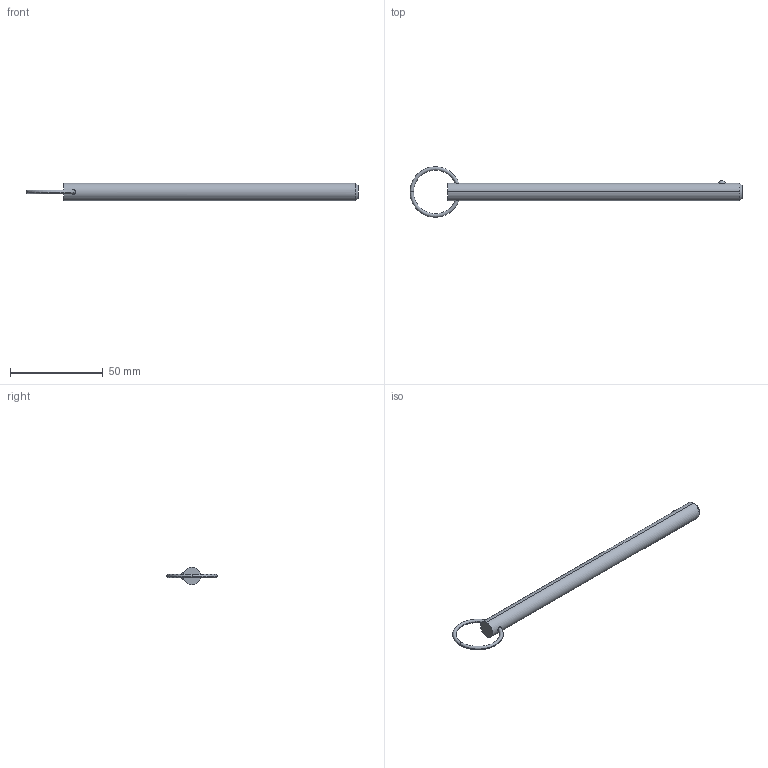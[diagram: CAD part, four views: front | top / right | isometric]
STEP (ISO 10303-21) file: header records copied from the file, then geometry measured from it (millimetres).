
FILE_DESCRIPTION (( 'STEP AP203' ), '1' );
FILE_NAME ('33012.W3755.step', '2024-11-01T14:10:38', ( '' ), ( '' ), 'SwSTEP 2.0', 'SolidWorks 2019', '' );
FILE_SCHEMA (( 'CONFIG_CONTROL_DESIGN' ));
Length unit declared in the file: millimetre
Products named in the file (3): 33012.W3755; Part1_33012.W3755; Part2_33012.W3755
Assembly tree (2 placements, depth 2):
  33012.W3755
    Part1_33012.W3755
    Part2_33012.W3755
Bounding box: 179.09 x 27.28 x 9.4 mm (x, y, z)
Volume: 11188.3 mm3; surface area: 5344.5 mm2
Topology: 2 solids, 2 shells, 16 faces, 31 edges, 18 vertices
Faces by surface type: torus 8, sphere 2, cone 2, cylinder 2, plane 2
Entity records: 849 total; most frequent: CARTESIAN_POINT 206, DIRECTION 88, ORIENTED_EDGE 62, AXIS2_PLACEMENT_3D 42, EDGE_CURVE 31, PERSON_AND_ORGANIZATION 26, CIRCLE 21, COORDINATED_UNIVERSAL_TIME_OFFSET 19
